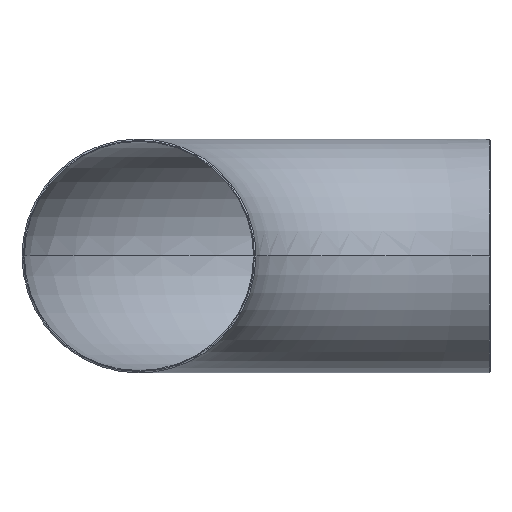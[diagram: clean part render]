
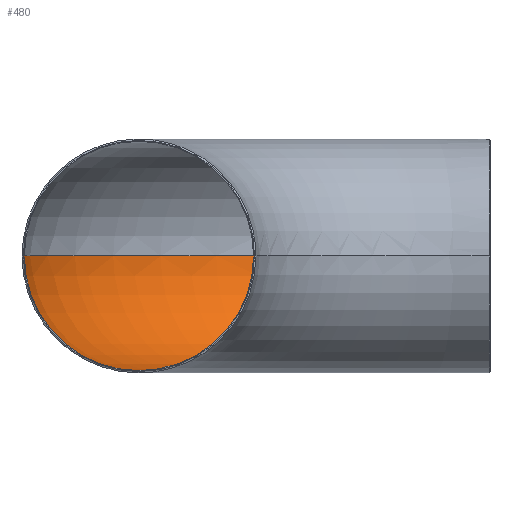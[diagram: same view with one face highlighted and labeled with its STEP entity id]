
A CAD part, front view. The second image highlights one B-rep face of the part: STEP entity #480.
In plain terms, the highlighted toroidal (fillet/blend) face has major radius 610 mm and minor radius 199.2 mm.
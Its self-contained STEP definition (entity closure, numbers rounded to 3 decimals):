
#2 = EDGE_CURVE ( 'NONE', #386, #170, #152, .T. ) ;
#4 = EDGE_LOOP ( 'NONE', ( #450, #215, #267, #186 ) ) ;
#26 = CARTESIAN_POINT ( 'NONE',  ( 610., 0., 0. ) ) ;
#73 = AXIS2_PLACEMENT_3D ( 'NONE', #448, #409, #502 ) ;
#92 = AXIS2_PLACEMENT_3D ( 'NONE', #26, #413, #222 ) ;
#121 = TOROIDAL_SURFACE ( 'NONE', #92, 610., 199.2 ) ;
#126 = DIRECTION ( 'NONE',  ( 0., 1., 0. ) ) ;
#152 = CIRCLE ( 'NONE', #433, 199.2 ) ;
#162 = VERTEX_POINT ( 'NONE', #624 ) ;
#170 = VERTEX_POINT ( 'NONE', #579 ) ;
#186 = ORIENTED_EDGE ( 'NONE', *, *, #422, .F. ) ;
#201 = CARTESIAN_POINT ( 'NONE',  ( 610., 410.8, 0. ) ) ;
#215 = ORIENTED_EDGE ( 'NONE', *, *, #392, .T. ) ;
#222 = DIRECTION ( 'NONE',  ( 1., 0., 0. ) ) ;
#225 = CARTESIAN_POINT ( 'NONE',  ( 199.2, 0., 0. ) ) ;
#253 = EDGE_CURVE ( 'NONE', #537, #162, #308, .T. ) ;
#257 = FACE_OUTER_BOUND ( 'NONE', #4, .T. ) ;
#267 = ORIENTED_EDGE ( 'NONE', *, *, #253, .F. ) ;
#285 = DIRECTION ( 'NONE',  ( 1., 0., 0. ) ) ;
#308 = CIRCLE ( 'NONE', #412, 199.2 ) ;
#325 = CARTESIAN_POINT ( 'NONE',  ( 610., 610., 0. ) ) ;
#354 = CARTESIAN_POINT ( 'NONE',  ( 610., 0., 0. ) ) ;
#380 = CARTESIAN_POINT ( 'NONE',  ( 0., 0., 0. ) ) ;
#386 = VERTEX_POINT ( 'NONE', #201 ) ;
#392 = EDGE_CURVE ( 'NONE', #170, #162, #543, .T. ) ;
#409 = DIRECTION ( 'NONE',  ( 0., 0., 1. ) ) ;
#412 = AXIS2_PLACEMENT_3D ( 'NONE', #380, #427, #469 ) ;
#413 = DIRECTION ( 'NONE',  ( 0., 0., 1. ) ) ;
#422 = EDGE_CURVE ( 'NONE', #386, #537, #581, .T. ) ;
#427 = DIRECTION ( 'NONE',  ( 0., 1., 0. ) ) ;
#433 = AXIS2_PLACEMENT_3D ( 'NONE', #325, #285, #126 ) ;
#448 = CARTESIAN_POINT ( 'NONE',  ( 610., 0., 0. ) ) ;
#450 = ORIENTED_EDGE ( 'NONE', *, *, #2, .T. ) ;
#453 = AXIS2_PLACEMENT_3D ( 'NONE', #354, #591, #637 ) ;
#469 = DIRECTION ( 'NONE',  ( 0., 0., 1. ) ) ;
#480 = ADVANCED_FACE ( 'NONE', ( #257 ), #121, .F. ) ;
#502 = DIRECTION ( 'NONE',  ( 1., 0., 0. ) ) ;
#537 = VERTEX_POINT ( 'NONE', #225 ) ;
#543 = CIRCLE ( 'NONE', #453, 809.2 ) ;
#579 = CARTESIAN_POINT ( 'NONE',  ( 610., 809.2, 0. ) ) ;
#581 = CIRCLE ( 'NONE', #73, 410.8 ) ;
#591 = DIRECTION ( 'NONE',  ( 0., 0., 1. ) ) ;
#624 = CARTESIAN_POINT ( 'NONE',  ( -199.2, 0., 0. ) ) ;
#637 = DIRECTION ( 'NONE',  ( 1., 0., 0. ) ) ;
